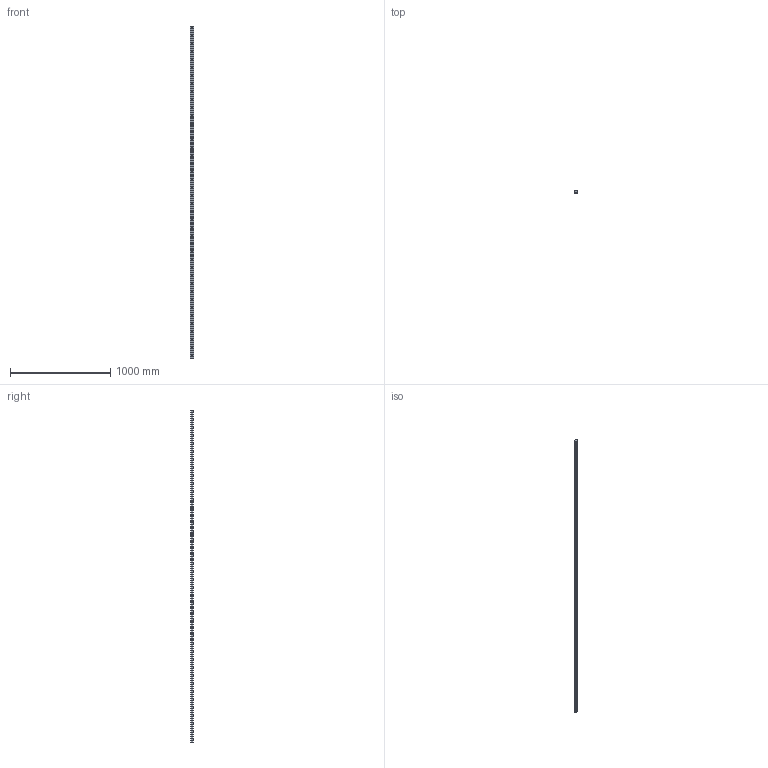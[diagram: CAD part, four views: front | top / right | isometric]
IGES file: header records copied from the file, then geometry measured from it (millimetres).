
Start section: SolidWorks IGES file using analytic representation for surfaces
Global section: file name: C:\Users\IanO\Desktop\Temp File\GENERAL\L1016_v2\L1016.RF35_v2\L1016.RF35_v2_20190612_IGES\L1016.RF35-3320.igs; native system: SolidWorks 2017; preprocessor: SolidWorks 2017; author: IanO; date: 190613.173315; units: millimetre
Bounding box: 34 x 26 x 3320 mm (x, y, z)
Surface area: 432276.7 mm2 (no closed solid volume)
Topology: 0 solids, 0 shells, 320 faces, 5208 edges, 5124 vertices
Faces by surface type: revolution 256, bspline 64
